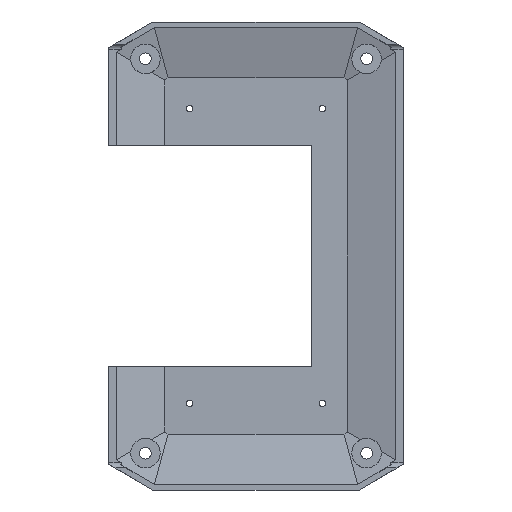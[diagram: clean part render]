
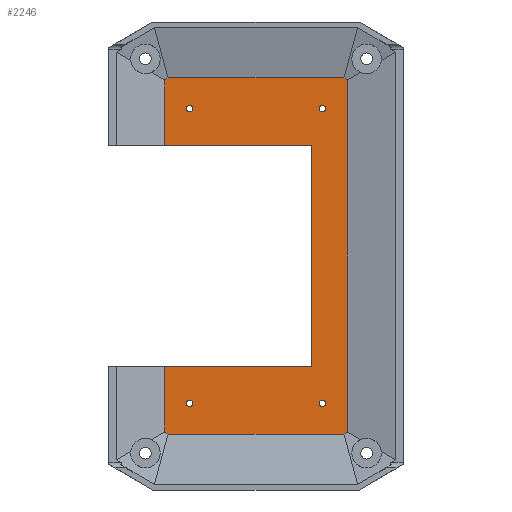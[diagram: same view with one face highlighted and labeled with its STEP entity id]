
A CAD part, front view. The second image highlights one B-rep face of the part: STEP entity #2246.
In plain terms, the highlighted planar face has unit normal (0, -1, 0).
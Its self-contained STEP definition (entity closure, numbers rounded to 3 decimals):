
#515=DIRECTION('',(1.,0.,0.));
#516=VECTOR('',#515,39.803);
#517=CARTESIAN_POINT('',(-24.803,9.5,30.));
#518=LINE('',#517,#516);
#519=DIRECTION('',(0.,0.,1.));
#520=VECTOR('',#519,17.772);
#521=CARTESIAN_POINT('',(-24.803,9.5,30.));
#522=LINE('',#521,#520);
#523=DIRECTION('',(0.864,0.,0.504));
#524=VECTOR('',#523,1.056);
#525=CARTESIAN_POINT('',(-24.803,9.5,47.772));
#526=LINE('',#525,#524);
#527=DIRECTION('',(1.,0.,0.));
#528=VECTOR('',#527,47.783);
#529=CARTESIAN_POINT('',(-23.892,9.5,48.303));
#530=LINE('',#529,#528);
#531=DIRECTION('',(0.864,0.,-0.504));
#532=VECTOR('',#531,1.056);
#533=CARTESIAN_POINT('',(23.892,9.5,48.303));
#534=LINE('',#533,#532);
#535=DIRECTION('',(0.,0.,-1.));
#536=VECTOR('',#535,95.543);
#537=CARTESIAN_POINT('',(24.803,9.5,47.772));
#538=LINE('',#537,#536);
#539=DIRECTION('',(-0.864,0.,-0.504));
#540=VECTOR('',#539,1.056);
#541=CARTESIAN_POINT('',(24.803,9.5,-47.772));
#542=LINE('',#541,#540);
#543=DIRECTION('',(-1.,0.,0.));
#544=VECTOR('',#543,47.783);
#545=CARTESIAN_POINT('',(23.892,9.5,-48.303));
#546=LINE('',#545,#544);
#547=DIRECTION('',(-0.864,0.,0.504));
#548=VECTOR('',#547,1.056);
#549=CARTESIAN_POINT('',(-23.892,9.5,-48.303));
#550=LINE('',#549,#548);
#551=DIRECTION('',(0.,0.,1.));
#552=VECTOR('',#551,17.772);
#553=CARTESIAN_POINT('',(-24.803,9.5,-47.772));
#554=LINE('',#553,#552);
#555=DIRECTION('',(1.,0.,0.));
#556=VECTOR('',#555,39.803);
#557=CARTESIAN_POINT('',(-24.803,9.5,-30.));
#558=LINE('',#557,#556);
#559=DIRECTION('',(0.,0.,-1.));
#560=VECTOR('',#559,60.);
#561=CARTESIAN_POINT('',(15.,9.5,30.));
#562=LINE('',#561,#560);
#563=CARTESIAN_POINT('',(-18.,9.5,-40.));
#564=DIRECTION('',(0.,1.,0.));
#565=DIRECTION('',(1.,0.,0.));
#566=AXIS2_PLACEMENT_3D('',#563,#564,#565);
#568=CARTESIAN_POINT('',(-18.,9.5,-40.));
#569=DIRECTION('',(0.,1.,0.));
#570=DIRECTION('',(-1.,0.,0.));
#571=AXIS2_PLACEMENT_3D('',#568,#569,#570);
#573=CARTESIAN_POINT('',(18.,9.5,-40.));
#574=DIRECTION('',(0.,1.,0.));
#575=DIRECTION('',(1.,0.,0.));
#576=AXIS2_PLACEMENT_3D('',#573,#574,#575);
#578=CARTESIAN_POINT('',(18.,9.5,-40.));
#579=DIRECTION('',(0.,1.,0.));
#580=DIRECTION('',(-1.,0.,0.));
#581=AXIS2_PLACEMENT_3D('',#578,#579,#580);
#583=CARTESIAN_POINT('',(-18.,9.5,40.));
#584=DIRECTION('',(0.,1.,0.));
#585=DIRECTION('',(1.,0.,0.));
#586=AXIS2_PLACEMENT_3D('',#583,#584,#585);
#588=CARTESIAN_POINT('',(-18.,9.5,40.));
#589=DIRECTION('',(0.,1.,0.));
#590=DIRECTION('',(-1.,0.,0.));
#591=AXIS2_PLACEMENT_3D('',#588,#589,#590);
#593=CARTESIAN_POINT('',(18.,9.5,40.));
#594=DIRECTION('',(0.,1.,0.));
#595=DIRECTION('',(1.,0.,0.));
#596=AXIS2_PLACEMENT_3D('',#593,#594,#595);
#598=CARTESIAN_POINT('',(18.,9.5,40.));
#599=DIRECTION('',(0.,1.,0.));
#600=DIRECTION('',(-1.,0.,0.));
#601=AXIS2_PLACEMENT_3D('',#598,#599,#600);
#1298=CARTESIAN_POINT('',(23.892,9.5,-48.303));
#1299=CARTESIAN_POINT('',(-23.892,9.5,-48.303));
#1300=VERTEX_POINT('',#1298);
#1301=VERTEX_POINT('',#1299);
#1302=CARTESIAN_POINT('',(24.803,9.5,-47.772));
#1303=VERTEX_POINT('',#1302);
#1304=CARTESIAN_POINT('',(24.803,9.5,47.772));
#1305=VERTEX_POINT('',#1304);
#1306=CARTESIAN_POINT('',(23.892,9.5,48.303));
#1307=VERTEX_POINT('',#1306);
#1312=CARTESIAN_POINT('',(-23.892,9.5,48.303));
#1313=VERTEX_POINT('',#1312);
#1314=CARTESIAN_POINT('',(-24.803,9.5,47.772));
#1315=VERTEX_POINT('',#1314);
#1316=CARTESIAN_POINT('',(-24.803,9.5,-47.772));
#1317=VERTEX_POINT('',#1316);
#1404=CARTESIAN_POINT('',(-24.803,9.5,30.));
#1405=CARTESIAN_POINT('',(15.,9.5,30.));
#1406=VERTEX_POINT('',#1404);
#1407=VERTEX_POINT('',#1405);
#1408=CARTESIAN_POINT('',(15.,9.5,-30.));
#1409=VERTEX_POINT('',#1408);
#1410=CARTESIAN_POINT('',(-24.803,9.5,-30.));
#1411=VERTEX_POINT('',#1410);
#1436=CARTESIAN_POINT('',(-17.1,9.5,-40.));
#1437=CARTESIAN_POINT('',(-18.9,9.5,-40.));
#1438=VERTEX_POINT('',#1436);
#1439=VERTEX_POINT('',#1437);
#1440=CARTESIAN_POINT('',(18.9,9.5,-40.));
#1441=CARTESIAN_POINT('',(17.1,9.5,-40.));
#1442=VERTEX_POINT('',#1440);
#1443=VERTEX_POINT('',#1441);
#1444=CARTESIAN_POINT('',(-17.1,9.5,40.));
#1445=CARTESIAN_POINT('',(-18.9,9.5,40.));
#1446=VERTEX_POINT('',#1444);
#1447=VERTEX_POINT('',#1445);
#1448=CARTESIAN_POINT('',(18.9,9.5,40.));
#1449=CARTESIAN_POINT('',(17.1,9.5,40.));
#1450=VERTEX_POINT('',#1448);
#1451=VERTEX_POINT('',#1449);
#2194=CARTESIAN_POINT('',(0.,9.5,0.));
#2195=DIRECTION('',(0.,1.,0.));
#2196=DIRECTION('',(1.,0.,0.));
#2197=AXIS2_PLACEMENT_3D('',#2194,#2195,#2196);
#2198=PLANE('',#2197);
#2199=ORIENTED_EDGE('',*,*,#2121,.F.);
#2201=ORIENTED_EDGE('',*,*,#2200,.T.);
#2203=ORIENTED_EDGE('',*,*,#2202,.T.);
#2205=ORIENTED_EDGE('',*,*,#2204,.T.);
#2207=ORIENTED_EDGE('',*,*,#2206,.T.);
#2209=ORIENTED_EDGE('',*,*,#2208,.T.);
#2210=ORIENTED_EDGE('',*,*,#1844,.T.);
#2212=ORIENTED_EDGE('',*,*,#2211,.T.);
#2214=ORIENTED_EDGE('',*,*,#2213,.T.);
#2216=ORIENTED_EDGE('',*,*,#2215,.T.);
#2218=ORIENTED_EDGE('',*,*,#2217,.T.);
#2219=ORIENTED_EDGE('',*,*,#2187,.F.);
#2220=EDGE_LOOP('',(#2199,#2201,#2203,#2205,#2207,#2209,#2210,#2212,#2214,#2216,
#2218,#2219));
#2221=FACE_OUTER_BOUND('',#2220,.F.);
#2223=ORIENTED_EDGE('',*,*,#2222,.F.);
#2225=ORIENTED_EDGE('',*,*,#2224,.F.);
#2226=EDGE_LOOP('',(#2223,#2225));
#2227=FACE_BOUND('',#2226,.F.);
#2229=ORIENTED_EDGE('',*,*,#2228,.F.);
#2231=ORIENTED_EDGE('',*,*,#2230,.F.);
#2232=EDGE_LOOP('',(#2229,#2231));
#2233=FACE_BOUND('',#2232,.F.);
#2235=ORIENTED_EDGE('',*,*,#2234,.F.);
#2237=ORIENTED_EDGE('',*,*,#2236,.F.);
#2238=EDGE_LOOP('',(#2235,#2237));
#2239=FACE_BOUND('',#2238,.F.);
#2241=ORIENTED_EDGE('',*,*,#2240,.F.);
#2243=ORIENTED_EDGE('',*,*,#2242,.F.);
#2244=EDGE_LOOP('',(#2241,#2243));
#2245=FACE_BOUND('',#2244,.F.);
#2246=ADVANCED_FACE('',(#2221,#2227,#2233,#2239,#2245),#2198,.F.);
#567=CIRCLE('',#566,0.9);
#572=CIRCLE('',#571,0.9);
#577=CIRCLE('',#576,0.9);
#582=CIRCLE('',#581,0.9);
#587=CIRCLE('',#586,0.9);
#592=CIRCLE('',#591,0.9);
#597=CIRCLE('',#596,0.9);
#602=CIRCLE('',#601,0.9);
#1844=EDGE_CURVE('',#1303,#1300,#542,.T.);
#2121=EDGE_CURVE('',#1406,#1407,#518,.T.);
#2187=EDGE_CURVE('',#1407,#1409,#562,.T.);
#2200=EDGE_CURVE('',#1406,#1315,#522,.T.);
#2202=EDGE_CURVE('',#1315,#1313,#526,.T.);
#2204=EDGE_CURVE('',#1313,#1307,#530,.T.);
#2206=EDGE_CURVE('',#1307,#1305,#534,.T.);
#2208=EDGE_CURVE('',#1305,#1303,#538,.T.);
#2211=EDGE_CURVE('',#1300,#1301,#546,.T.);
#2213=EDGE_CURVE('',#1301,#1317,#550,.T.);
#2215=EDGE_CURVE('',#1317,#1411,#554,.T.);
#2217=EDGE_CURVE('',#1411,#1409,#558,.T.);
#2222=EDGE_CURVE('',#1438,#1439,#567,.T.);
#2224=EDGE_CURVE('',#1439,#1438,#572,.T.);
#2228=EDGE_CURVE('',#1442,#1443,#577,.T.);
#2230=EDGE_CURVE('',#1443,#1442,#582,.T.);
#2234=EDGE_CURVE('',#1446,#1447,#587,.T.);
#2236=EDGE_CURVE('',#1447,#1446,#592,.T.);
#2240=EDGE_CURVE('',#1450,#1451,#597,.T.);
#2242=EDGE_CURVE('',#1451,#1450,#602,.T.);
